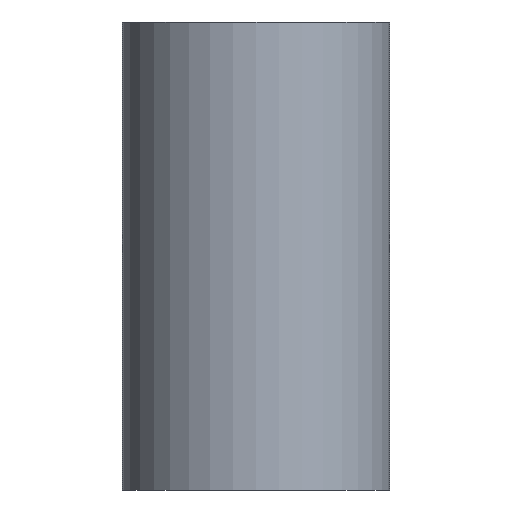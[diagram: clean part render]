
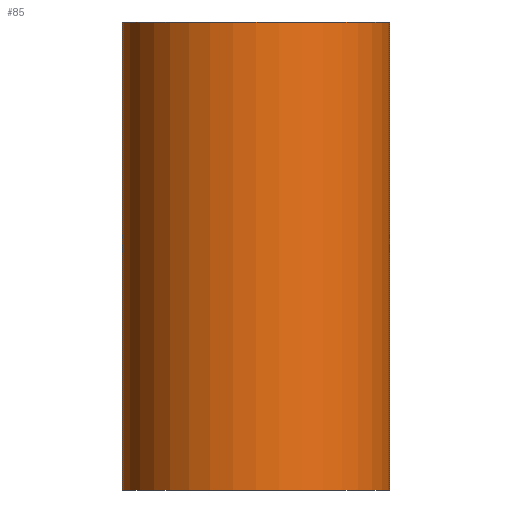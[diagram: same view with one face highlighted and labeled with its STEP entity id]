
A CAD part, front view. The second image highlights one B-rep face of the part: STEP entity #85.
In plain terms, the highlighted cylindrical face has radius 26.86 mm (diameter 53.72 mm), a full revolution.
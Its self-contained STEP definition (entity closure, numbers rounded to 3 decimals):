
#31 = PLANE('',#32);
#32 = AXIS2_PLACEMENT_3D('',#33,#34,#35);
#33 = CARTESIAN_POINT('',(0.,0.,0.));
#34 = DIRECTION('',(0.,0.,1.));
#35 = DIRECTION('',(1.,0.,-0.));
#57 = EDGE_CURVE('',#58,#58,#60,.T.);
#58 = VERTEX_POINT('',#59);
#59 = CARTESIAN_POINT('',(26.86,0.,0.));
#60 = SURFACE_CURVE('',#61,(#66,#73),.PCURVE_S1.);
#61 = CIRCLE('',#62,26.86);
#62 = AXIS2_PLACEMENT_3D('',#63,#64,#65);
#63 = CARTESIAN_POINT('',(0.,0.,0.));
#64 = DIRECTION('',(0.,0.,1.));
#65 = DIRECTION('',(1.,0.,-0.));
#66 = PCURVE('',#31,#67);
#67 = DEFINITIONAL_REPRESENTATION('',(#68),#72);
#68 = CIRCLE('',#69,26.86);
#69 = AXIS2_PLACEMENT_2D('',#70,#71);
#70 = CARTESIAN_POINT('',(0.,0.));
#71 = DIRECTION('',(1.,-0.));
#72 = ( GEOMETRIC_REPRESENTATION_CONTEXT(2) 
PARAMETRIC_REPRESENTATION_CONTEXT() REPRESENTATION_CONTEXT('2D SPACE',''
  ) );
#73 = PCURVE('',#74,#79);
#74 = CYLINDRICAL_SURFACE('',#75,26.86);
#75 = AXIS2_PLACEMENT_3D('',#76,#77,#78);
#76 = CARTESIAN_POINT('',(0.,0.,0.));
#77 = DIRECTION('',(0.,0.,1.));
#78 = DIRECTION('',(1.,0.,-0.));
#79 = DEFINITIONAL_REPRESENTATION('',(#80),#84);
#80 = LINE('',#81,#82);
#81 = CARTESIAN_POINT('',(0.,0.));
#82 = VECTOR('',#83,1.);
#83 = DIRECTION('',(1.,0.));
#84 = ( GEOMETRIC_REPRESENTATION_CONTEXT(2) 
PARAMETRIC_REPRESENTATION_CONTEXT() REPRESENTATION_CONTEXT('2D SPACE',''
  ) );
#85 = ADVANCED_FACE('',(#86),#74,.T.);
#86 = FACE_BOUND('',#87,.T.);
#87 = EDGE_LOOP('',(#88,#89,#112,#139));
#88 = ORIENTED_EDGE('',*,*,#57,.T.);
#89 = ORIENTED_EDGE('',*,*,#90,.T.);
#90 = EDGE_CURVE('',#58,#91,#93,.T.);
#91 = VERTEX_POINT('',#92);
#92 = CARTESIAN_POINT('',(26.86,0.,94.1));
#93 = SEAM_CURVE('',#94,(#98,#105),.PCURVE_S1.);
#94 = LINE('',#95,#96);
#95 = CARTESIAN_POINT('',(26.86,0.,0.));
#96 = VECTOR('',#97,1.);
#97 = DIRECTION('',(0.,0.,1.));
#98 = PCURVE('',#74,#99);
#99 = DEFINITIONAL_REPRESENTATION('',(#100),#104);
#100 = LINE('',#101,#102);
#101 = CARTESIAN_POINT('',(0.,0.));
#102 = VECTOR('',#103,1.);
#103 = DIRECTION('',(0.,1.));
#104 = ( GEOMETRIC_REPRESENTATION_CONTEXT(2) 
PARAMETRIC_REPRESENTATION_CONTEXT() REPRESENTATION_CONTEXT('2D SPACE',''
  ) );
#105 = PCURVE('',#74,#106);
#106 = DEFINITIONAL_REPRESENTATION('',(#107),#111);
#107 = LINE('',#108,#109);
#108 = CARTESIAN_POINT('',(6.283,0.));
#109 = VECTOR('',#110,1.);
#110 = DIRECTION('',(0.,1.));
#111 = ( GEOMETRIC_REPRESENTATION_CONTEXT(2) 
PARAMETRIC_REPRESENTATION_CONTEXT() REPRESENTATION_CONTEXT('2D SPACE',''
  ) );
#112 = ORIENTED_EDGE('',*,*,#113,.F.);
#113 = EDGE_CURVE('',#91,#91,#114,.T.);
#114 = SURFACE_CURVE('',#115,(#120,#127),.PCURVE_S1.);
#115 = CIRCLE('',#116,26.86);
#116 = AXIS2_PLACEMENT_3D('',#117,#118,#119);
#117 = CARTESIAN_POINT('',(0.,0.,94.1));
#118 = DIRECTION('',(0.,0.,1.));
#119 = DIRECTION('',(1.,0.,-0.));
#120 = PCURVE('',#74,#121);
#121 = DEFINITIONAL_REPRESENTATION('',(#122),#126);
#122 = LINE('',#123,#124);
#123 = CARTESIAN_POINT('',(0.,94.1));
#124 = VECTOR('',#125,1.);
#125 = DIRECTION('',(1.,0.));
#126 = ( GEOMETRIC_REPRESENTATION_CONTEXT(2) 
PARAMETRIC_REPRESENTATION_CONTEXT() REPRESENTATION_CONTEXT('2D SPACE',''
  ) );
#127 = PCURVE('',#128,#133);
#128 = PLANE('',#129);
#129 = AXIS2_PLACEMENT_3D('',#130,#131,#132);
#130 = CARTESIAN_POINT('',(0.,0.,94.1));
#131 = DIRECTION('',(0.,0.,1.));
#132 = DIRECTION('',(1.,0.,-0.));
#133 = DEFINITIONAL_REPRESENTATION('',(#134),#138);
#134 = CIRCLE('',#135,26.86);
#135 = AXIS2_PLACEMENT_2D('',#136,#137);
#136 = CARTESIAN_POINT('',(0.,0.));
#137 = DIRECTION('',(1.,0.));
#138 = ( GEOMETRIC_REPRESENTATION_CONTEXT(2) 
PARAMETRIC_REPRESENTATION_CONTEXT() REPRESENTATION_CONTEXT('2D SPACE',''
  ) );
#139 = ORIENTED_EDGE('',*,*,#90,.F.);
